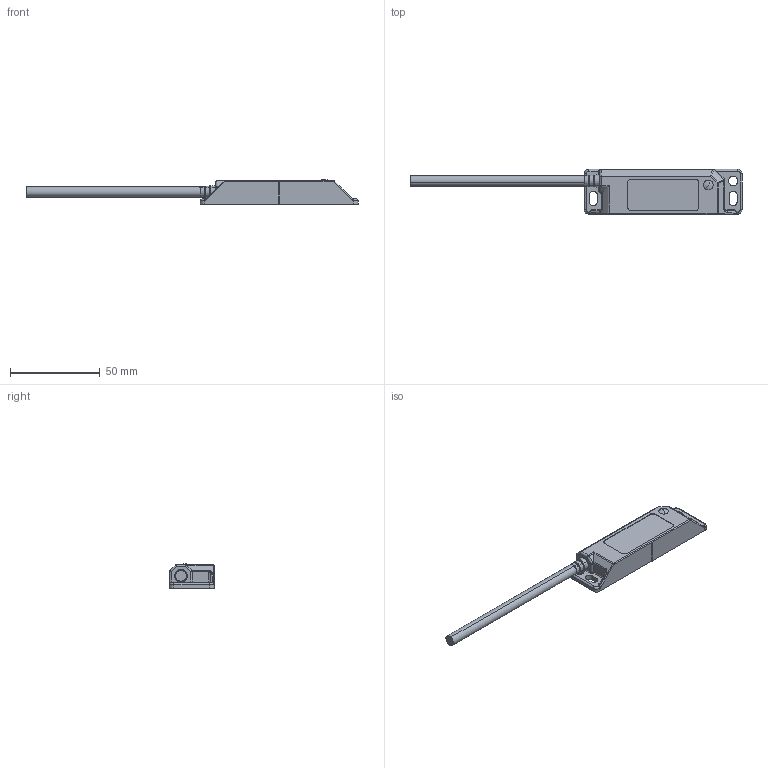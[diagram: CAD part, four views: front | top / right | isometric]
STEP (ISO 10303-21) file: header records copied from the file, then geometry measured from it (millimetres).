
FILE_DESCRIPTION (( 'STEP AP203' ), '1' );
FILE_NAME ('LPC switch step.STEP', '2012-06-19T11:38:56', ( '' ), ( '' ), 'SwSTEP 2.0', 'SolidWorks 2012', '' );
FILE_SCHEMA (( 'CONFIG_CONTROL_DESIGN' ));
Length unit declared in the file: millimetre
Products named in the file (1): LPC switch step
Bounding box: 185.36 x 25.3 x 13.8 mm (x, y, z)
Surface area: 9245 mm2 (no closed solid volume)
Topology: 0 solids, 7 shells, 194 faces, 510 edges, 312 vertices
Faces by surface type: cylinder 64, plane 54, bspline 28, torus 28, sphere 10, cone 10
Entity records: 6732 total; most frequent: CARTESIAN_POINT 2029, DIRECTION 977, ORIENTED_EDGE 934, EDGE_CURVE 503, AXIS2_PLACEMENT_3D 366, VERTEX_POINT 312, LINE 245, VECTOR 245
